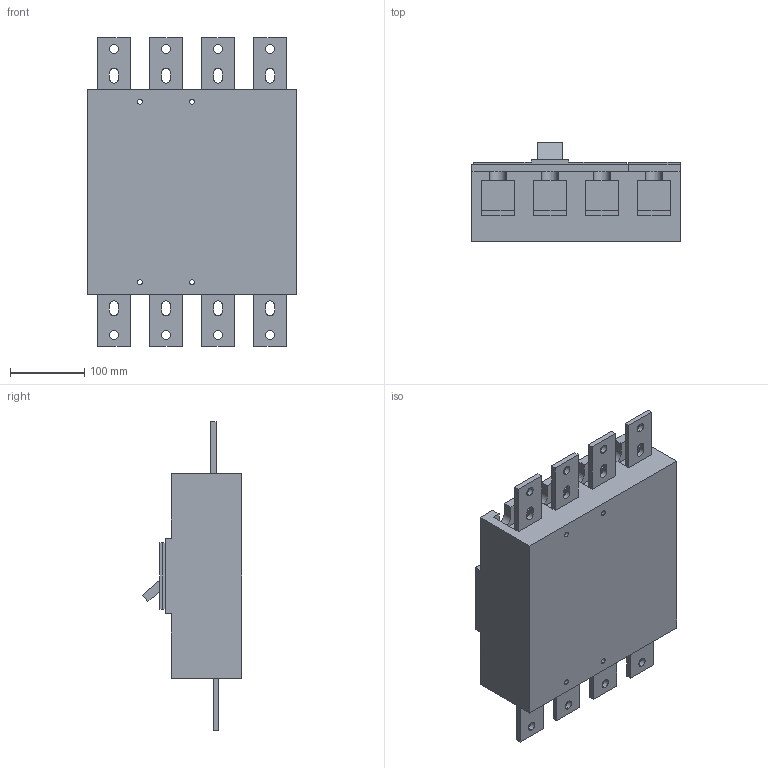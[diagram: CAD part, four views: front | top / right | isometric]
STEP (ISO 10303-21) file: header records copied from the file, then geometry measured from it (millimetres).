
FILE_DESCRIPTION (( 'STEP AP203' ), '1' );
FILE_NAME ('DBS604NS.STEP', '2018-12-10T01:21:08', ( '' ), ( '' ), 'SwSTEP 2.0', 'SolidWorks 2015', '' );
FILE_SCHEMA (( 'CONFIG_CONTROL_DESIGN' ));
Length unit declared in the file: millimetre
Products named in the file (1): DBS604NS
Bounding box: 280 x 133.64 x 415 mm (x, y, z)
Volume: 7242200.6 mm3; surface area: 382865.4 mm2
Topology: 1 solids, 1 shells, 235 faces, 638 edges, 420 vertices
Faces by surface type: plane 149, cylinder 86
Entity records: 7553 total; most frequent: CARTESIAN_POINT 1294, DIRECTION 1282, ORIENTED_EDGE 1276, EDGE_CURVE 638, VECTOR 466, LINE 466, VERTEX_POINT 420, AXIS2_PLACEMENT_3D 408
